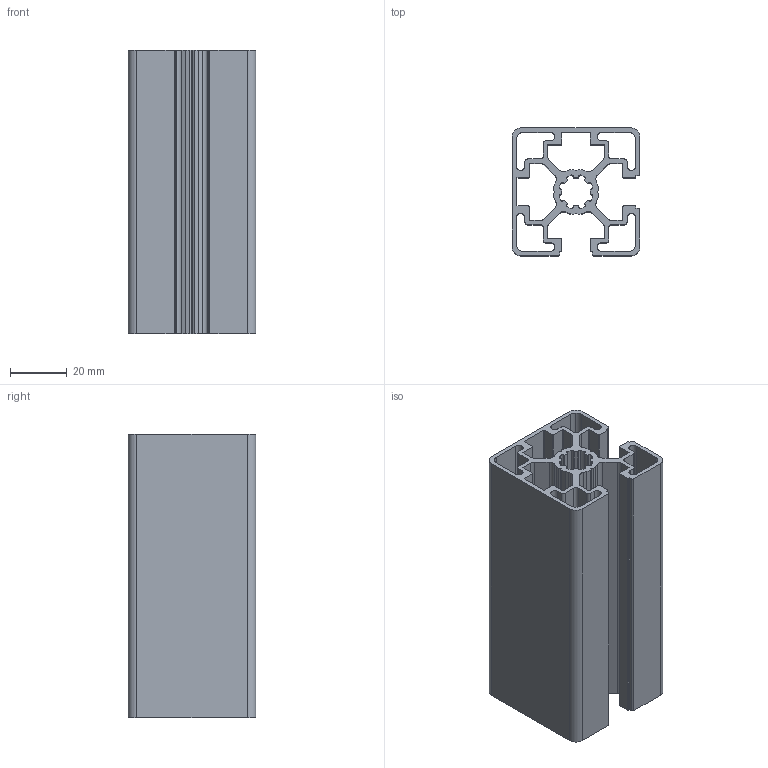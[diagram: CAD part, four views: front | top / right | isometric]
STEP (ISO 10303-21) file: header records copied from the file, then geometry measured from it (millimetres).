
FILE_DESCRIPTION(/* description */ (''),/* implementation_level */ '2;1');
FILE_NAME(/* name */ 'b0274c43-2f25-4c43-bc98-8999d70e3390.stp',/* time_stamp */ '2024-06-21T23:57:22Z',/* author */ (''),/* organization */ (''),/* preprocessor_version */ 'ST-DEVELOPER v20',/* originating_system */ 'Autodesk Translation Framework v13.14.0.145',/* authorisation */ '');
FILE_SCHEMA (('AUTOMOTIVE_DESIGN { 1 0 10303 214 3 1 1 }'));
Length unit declared in the file: millimetre
Products named in the file (1): T-Slot-45x45-2-Slot-Corner
Bounding box: 45 x 45 x 100 mm (x, y, z)
Volume: 60743.5 mm3; surface area: 64527.3 mm2
Topology: 1 solids, 1 shells, 250 faces, 744 edges, 496 vertices
Faces by surface type: cylinder 136, plane 114
Entity records: 8548 total; most frequent: DIRECTION 1518, CARTESIAN_POINT 1491, ORIENTED_EDGE 1488, EDGE_CURVE 744, AXIS2_PLACEMENT_3D 523, VERTEX_POINT 496, LINE 472, VECTOR 472
